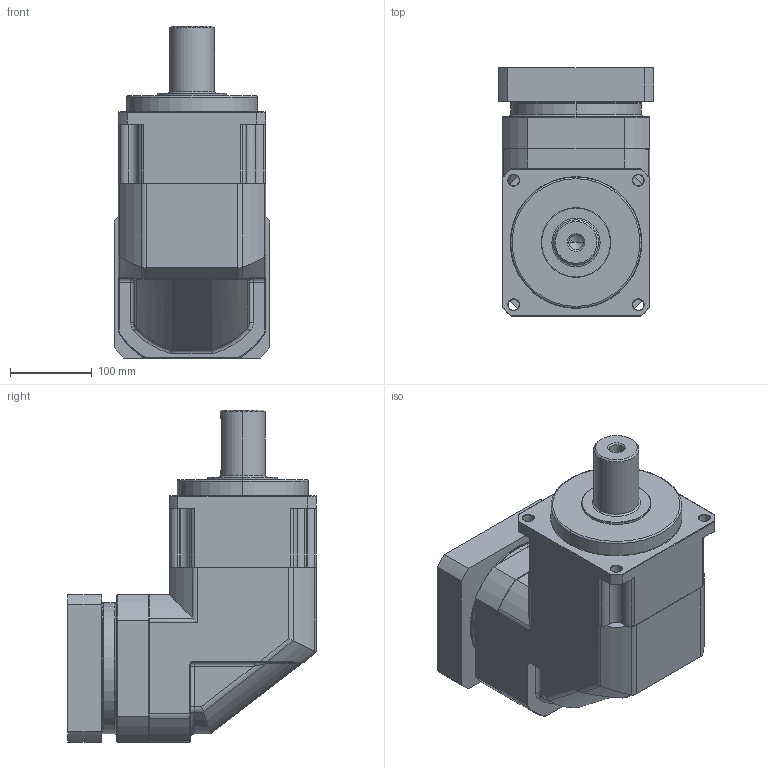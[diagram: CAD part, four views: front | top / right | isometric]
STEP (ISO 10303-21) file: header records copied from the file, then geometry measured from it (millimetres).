
FILE_DESCRIPTION (( 'STEP AP214' ), '1' );
FILE_NAME ('PAR180-L1-S2-P2 35-114.3-200-M12.STEP', '2025-01-15T01:38:41', ( '微软用户' ), ( '微软中国' ), 'SwSTEP 2.0', 'SolidWorks 2021', '' );
FILE_SCHEMA (( 'AUTOMOTIVE_DESIGN' ));
Length unit declared in the file: millimetre
Products named in the file (1): PAR180-L1-S2-P2 35-114.3-200-M12
Bounding box: 190 x 304 x 405.5 mm (x, y, z)
Volume: 11602865.6 mm3; surface area: 409345 mm2
Topology: 1 solids, 1 shells, 286 faces, 677 edges, 405 vertices
Faces by surface type: cylinder 117, plane 77, cone 72, torus 10, bspline 8, sphere 2
Entity records: 8698 total; most frequent: CARTESIAN_POINT 2055, DIRECTION 1445, ORIENTED_EDGE 1346, EDGE_CURVE 673, AXIS2_PLACEMENT_3D 566, VERTEX_POINT 405, LINE 313, VECTOR 313
